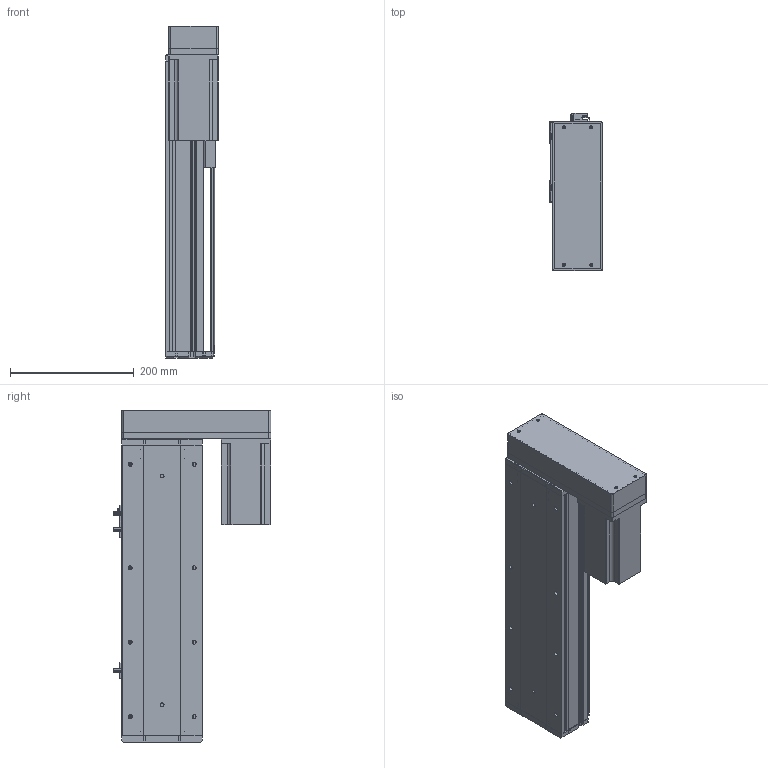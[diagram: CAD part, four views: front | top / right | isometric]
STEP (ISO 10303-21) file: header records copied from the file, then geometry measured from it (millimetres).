
FILE_DESCRIPTION (( 'STEP AP214' ), '1' );
FILE_NAME ('KSD130-P2010-S250-MR-CM.STEP', '2019-09-17T07:27:36', ( '微软用户' ), ( '微软中国' ), 'SwSTEP 2.0', 'SolidWorks 2014', '' );
FILE_SCHEMA (( 'AUTOMOTIVE_DESIGN' ));
Length unit declared in the file: millimetre
Products named in the file (11): 130宽马达安装板半封闭; 130遵傷裔圉猾敕; 130宽底板半封闭丝杠-250行程; KSD130-P2010-S250-MR-CM; 130宽模组保护罩左右折; 台达ECMA－C20807AS伺服电机; 130宽模组马达安装板连板左右折丝杆; U倰嫖萇EEㄜSX672; 覜茼え100遵圉猾敕; 130宽盖板半封闭丝杠-250行程; 130宽滚珠丝杆安装板半封闭-20丝杠
Assembly tree (12 placements, depth 2):
  KSD130-P2010-S250-MR-CM
    130宽底板半封闭丝杠-250行程
    130遵傷裔圉猾敕
    130宽马达安装板半封闭
    130宽滚珠丝杆安装板半封闭-20丝杠
    130宽盖板半封闭丝杠-250行程
    覜茼え100遵圉猾敕
    U倰嫖萇EEㄜSX672  x3
    130宽模组马达安装板连板左右折丝杆
    台达ECMA－C20807AS伺服电机
    130宽模组保护罩左右折
Bounding box: 85 x 253.7 x 535.5 mm (x, y, z)
Volume: 2781384.6 mm3; surface area: 707258.8 mm2
Topology: 13 solids, 13 shells, 1206 faces, 3359 edges, 2155 vertices
Faces by surface type: cylinder 549, plane 542, cone 115
Entity records: 37758 total; most frequent: CARTESIAN_POINT 6728, DIRECTION 5677, ORIENTED_EDGE 5454, EDGE_CURVE 2727, AXIS2_PLACEMENT_3D 2032, VERTEX_POINT 1779, VECTOR 1613, LINE 1613
